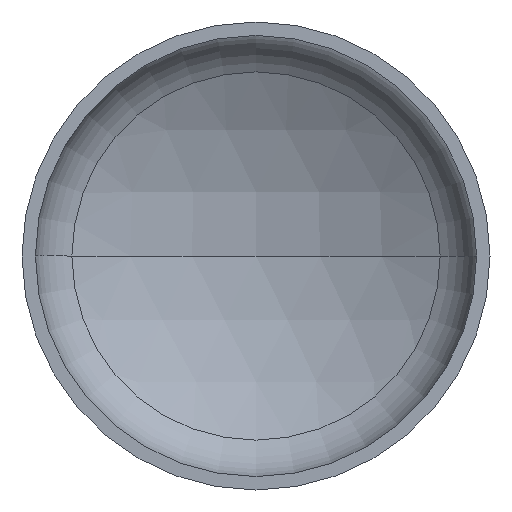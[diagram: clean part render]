
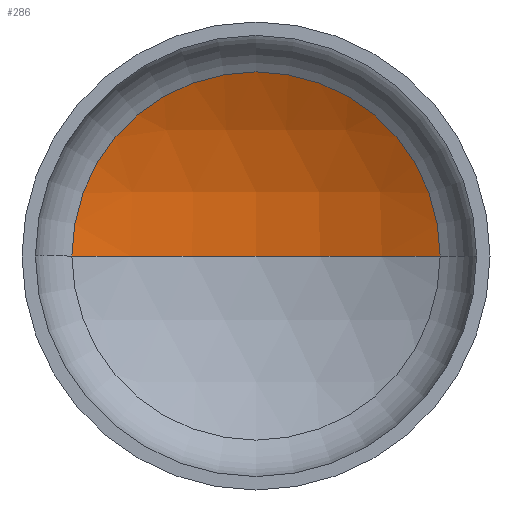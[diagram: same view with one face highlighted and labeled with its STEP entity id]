
A CAD part, front view. The second image highlights one B-rep face of the part: STEP entity #286.
In plain terms, the highlighted spherical face has radius 2560 mm.
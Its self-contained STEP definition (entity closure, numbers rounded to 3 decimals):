
#7 = ORIENTED_EDGE ( 'NONE', *, *, #67, .T. ) ;
#21 = EDGE_LOOP ( 'NONE', ( #106, #83, #7 ) ) ;
#26 = AXIS2_PLACEMENT_3D ( 'NONE', #396, #400, #399 ) ;
#30 = AXIS2_PLACEMENT_3D ( 'NONE', #253, #408, #118 ) ;
#32 = AXIS2_PLACEMENT_3D ( 'NONE', #220, #192, #193 ) ;
#33 = AXIS2_PLACEMENT_3D ( 'NONE', #309, #230, #226 ) ;
#50 = CIRCLE ( 'NONE', #30, 2560. ) ;
#67 = EDGE_CURVE ( 'NONE', #143, #112, #255, .T. ) ;
#69 = EDGE_CURVE ( 'NONE', #107, #143, #190, .T. ) ;
#70 = EDGE_CURVE ( 'NONE', #107, #112, #50, .T. ) ;
#83 = ORIENTED_EDGE ( 'NONE', *, *, #69, .T. ) ;
#106 = ORIENTED_EDGE ( 'NONE', *, *, #70, .F. ) ;
#107 = VERTEX_POINT ( 'NONE', #128 ) ;
#112 = VERTEX_POINT ( 'NONE', #317 ) ;
#118 = DIRECTION ( 'NONE',  ( 1., 0., 0. ) ) ;
#128 = CARTESIAN_POINT ( 'NONE',  ( 0., 857.619, 0. ) ) ;
#143 = VERTEX_POINT ( 'NONE', #229 ) ;
#190 = CIRCLE ( 'NONE', #32, 2560. ) ;
#192 = DIRECTION ( 'NONE',  ( 0., 0., -1. ) ) ;
#193 = DIRECTION ( 'NONE',  ( -1., 0., 0. ) ) ;
#220 = CARTESIAN_POINT ( 'NONE',  ( 0., -1702.381, 0. ) ) ;
#226 = DIRECTION ( 'NONE',  ( 1., 0., 0. ) ) ;
#227 = FACE_OUTER_BOUND ( 'NONE', #21, .T. ) ;
#229 = CARTESIAN_POINT ( 'NONE',  ( 1258.976, 526.65, 0. ) ) ;
#230 = DIRECTION ( 'NONE',  ( 0., -1., 0. ) ) ;
#253 = CARTESIAN_POINT ( 'NONE',  ( 0., -1702.381, 0. ) ) ;
#255 = CIRCLE ( 'NONE', #33, 1258.976 ) ;
#286 = ADVANCED_FACE ( 'NONE', ( #227 ), #348, .F. ) ;
#309 = CARTESIAN_POINT ( 'NONE',  ( 0., 526.65, 0. ) ) ;
#317 = CARTESIAN_POINT ( 'NONE',  ( -1258.976, 526.65, 0. ) ) ;
#348 = SPHERICAL_SURFACE ( 'NONE', #26, 2560. ) ;
#396 = CARTESIAN_POINT ( 'NONE',  ( 0., -1702.381, 0. ) ) ;
#399 = DIRECTION ( 'NONE',  ( -1., 0., 0. ) ) ;
#400 = DIRECTION ( 'NONE',  ( 0., 0., -1. ) ) ;
#408 = DIRECTION ( 'NONE',  ( 0., 0., 1. ) ) ;
